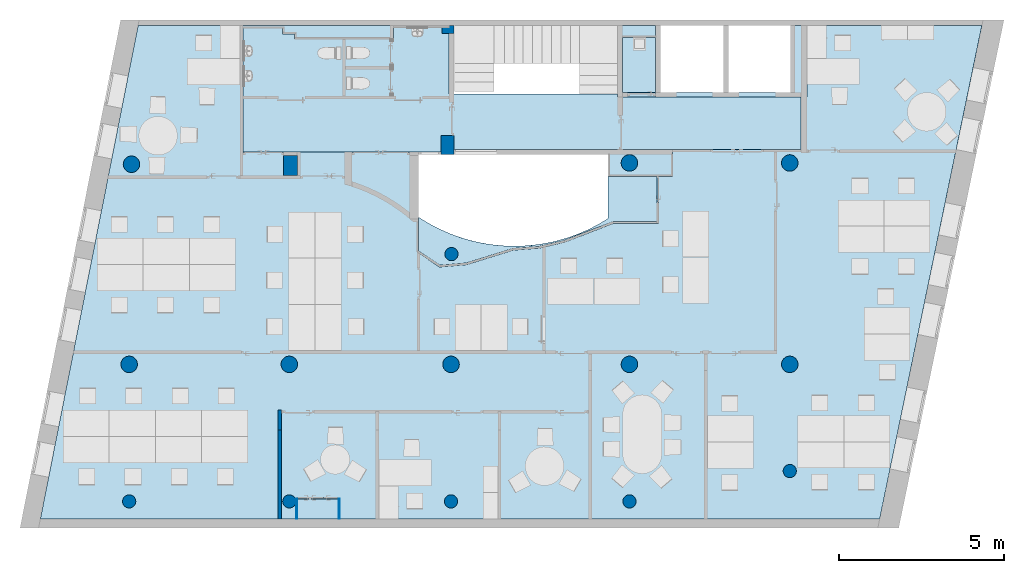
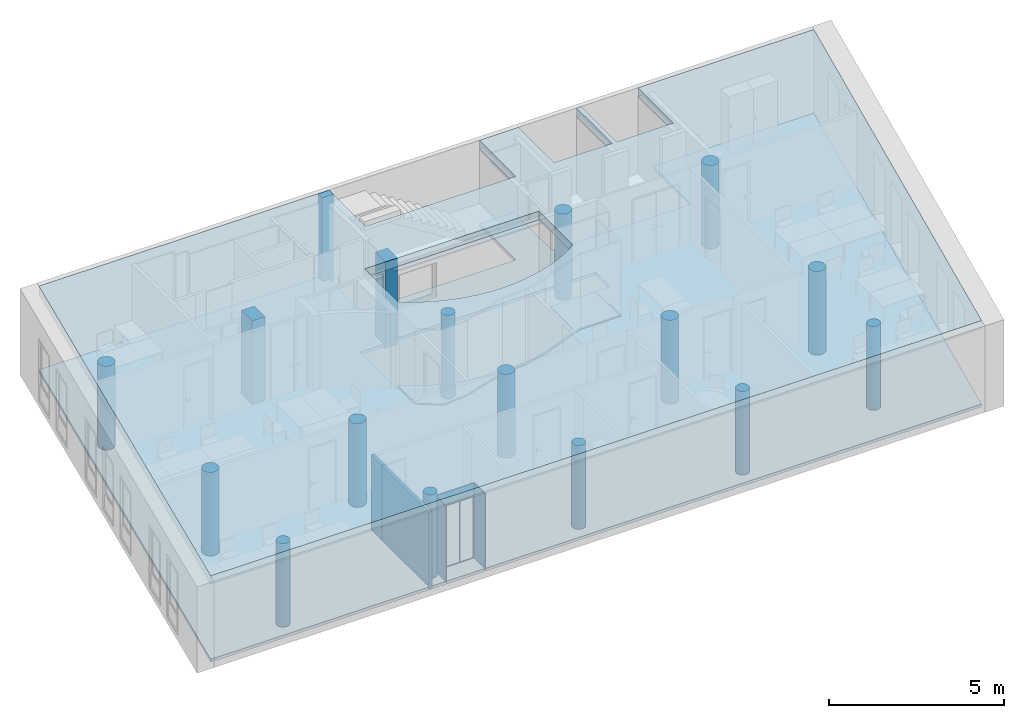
"""IFC4 building model written with IfcOpenShell, lengths in metres."""

from ifc_helpers import new_model, entity, si_unit, converted_unit, derived_unit, frame, frame_2d, origin, origin_with_axes, place, context, subcontext, project, spatial, polyline, rectangle, circle, outline, extrude, material, layer, layer_set, layer_usage, element, save


model = new_model("IFC4")

# Units and contexts
model_context = context("Model", 3, precision=1e-05, world=origin())
body_context = subcontext(model_context, "Body", "Model", "MODEL_VIEW")
ifc_project = project(units=[si_unit("LENGTHUNIT", "METRE"), si_unit("AREAUNIT", "SQUARE_METRE"), si_unit("VOLUMEUNIT", "CUBIC_METRE"), si_unit("MASSUNIT", "GRAM", prefix="KILO"), converted_unit("PLANEANGLEUNIT", "DEGREE", entity("IfcPlaneAngleMeasure", 0.0174532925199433), si_unit("PLANEANGLEUNIT", "RADIAN"), dimensions=[0, 0, 0, 0, 0, 0, 0]), derived_unit("THERMALTRANSMITTANCEUNIT", [(si_unit("POWERUNIT", "WATT"), 1), (si_unit("THERMODYNAMICTEMPERATUREUNIT", "KELVIN"), -1), (si_unit("LENGTHUNIT", "METRE"), -2)]), derived_unit("VOLUMETRICFLOWRATEUNIT", [(si_unit("LENGTHUNIT", "METRE"), 3), (converted_unit("TIMEUNIT", "hour", entity("IfcTimeMeasure", 3600.0), si_unit("TIMEUNIT", "SECOND"), dimensions=[0, 0, 1, 0, 0, 0, 0]), -1), (si_unit("LENGTHUNIT", "METRE"), -1)])], contexts=[model_context])

# Building, storeys
building_placement = place(None, origin())
building = spatial("IfcBuilding", under=ifc_project, at=building_placement, Name="HABITATGE PLURIFAMILIAR", CompositionType="ELEMENT")
storey_1_placement = place(building_placement, frame((0.0, 0.0, 9.26)))
storey_1 = spatial("IfcBuildingStorey", under=building, at=storey_1_placement, Name="PLANTA SEGONA", CompositionType="ELEMENT", Elevation=9.26)
storey_2_placement = place(storey_1_placement, frame((0.0, 0.0, 6.25)))
storey_2 = spatial("IfcBuildingStorey", under=storey_1, at=storey_2_placement, Name="NOU", CompositionType="PARTIAL")

# Columns
column_1_placement = place(storey_2_placement, frame((420.791984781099, 14.3694598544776, -6.35)))
element("IfcColumn", 1, at=column_1_placement, inside=storey_2, Name="Pilar P2", PredefinedType="COLUMN", context=body_context, shape_type="SweptSolid", body=[
    extrude(circle(Radius=0.200000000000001, at=frame_2d((0.200000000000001, 0.200000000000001), x_axis=(1.0, 0.0))), origin_with_axes(), (0.0, 0.0, 1.0), 3.01),
])
column_2_placement = place(storey_2_placement, frame((400.736984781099, 17.5494598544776, -6.35)))
element("IfcColumn", 2, at=column_2_placement, inside=storey_2, Name="Pilar P2", PredefinedType="COLUMN", context=body_context, shape_type="SweptSolid", body=[
    extrude(circle(Radius=0.25, at=frame_2d((0.25, 0.25), x_axis=(1.0, 0.0))), origin_with_axes(), (0.0, 0.0, 1.0), 3.01),
])
column_3_placement = place(storey_2_placement, frame((410.533725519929, 13.4494598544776, -6.35)))
element("IfcColumn", 3, at=column_3_placement, inside=storey_2, Name="Pilar P2", PredefinedType="COLUMN", context=body_context, shape_type="SweptSolid", body=[
    extrude(circle(Radius=0.200000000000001, at=frame_2d((0.200000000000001, 0.200000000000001), x_axis=(1.0, 0.0))), origin_with_axes(), (0.0, 0.0, 1.0), 3.01),
])
for number, where, name in (
    (4, (410.483725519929, 17.5494598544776, -6.35), "Pilar P2"),
    (5, (405.586984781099, 17.5494598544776, -6.35), "Pilar P2"),
):
    element("IfcColumn", number, at=place(storey_2_placement, frame(where)), inside=storey_2, Name=name, PredefinedType="COLUMN", context=body_context, shape_type="SweptSolid", body=[
        extrude(circle(Radius=0.25, at=frame_2d((0.25, 0.25), x_axis=(1.0, 0.0))), origin_with_axes(), (0.0, 0.0, 1.0), 3.01),
    ])
for number, where, name in (
    (6, (405.636984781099, 13.4494598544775, -6.35), "Pilar P2"),
    (7, (400.786984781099, 13.4494598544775, -6.35), "Pilar P2"),
    (8, (415.936984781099, 13.4494598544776, -6.35), "Pilar P2"),
):
    element("IfcColumn", number, at=place(storey_2_placement, frame(where)), inside=storey_2, Name=name, PredefinedType="COLUMN", context=body_context, shape_type="SweptSolid", body=[
        extrude(circle(Radius=0.200000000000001, at=frame_2d((0.200000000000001, 0.200000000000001), x_axis=(1.0, 0.0))), origin_with_axes(), (0.0, 0.0, 1.0), 3.01),
    ])
for number, where, name in (
    (9, (415.886984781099, 17.5494598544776, -6.35), "Pilar P2"),
    (10, (420.741984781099, 23.6494598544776, -6.35), "Pilar P2"),
):
    element("IfcColumn", number, at=place(storey_2_placement, frame(where)), inside=storey_2, Name=name, PredefinedType="COLUMN", context=body_context, shape_type="SweptSolid", body=[
        extrude(circle(Radius=0.25, at=frame_2d((0.25, 0.25), x_axis=(1.0, 0.0))), origin_with_axes(), (0.0, 0.0, 1.0), 3.01),
    ])
column_4_placement = place(storey_2_placement, frame((410.546984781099, 20.9394598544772, -6.35)))
element("IfcColumn", 11, at=column_4_placement, inside=storey_2, Name="Pilar P2", PredefinedType="COLUMN", context=body_context, shape_type="SweptSolid", body=[
    extrude(circle(Radius=0.200000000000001, at=frame_2d((0.200000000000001, 0.200000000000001), x_axis=(1.0, 0.0))), origin_with_axes(), (0.0, 0.0, 1.0), 3.01),
])
for number, where, name in (
    (12, (420.741984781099, 17.5494598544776, -6.35), "Pilar P2"),
    (13, (400.806984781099, 23.6094598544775, -6.35), "Pilar P2"),
    (14, (415.886984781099, 23.6494598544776, -6.35), "Pilar P2"),
):
    element("IfcColumn", number, at=place(storey_2_placement, frame(where)), inside=storey_2, Name=name, PredefinedType="COLUMN", context=body_context, shape_type="SweptSolid", body=[
        extrude(circle(Radius=0.25, at=frame_2d((0.25, 0.25), x_axis=(1.0, 0.0))), origin_with_axes(), (0.0, 0.0, 1.0), 3.01),
    ])
column_5_placement = place(storey_2_placement, frame((405.666984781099, 23.5194598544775, -6.35)))
element("IfcColumn", 15, at=column_5_placement, inside=storey_2, Name="Pilar P2", PredefinedType="COLUMN", context=body_context, shape_type="SweptSolid", body=[
    extrude(rectangle(XDim=0.423483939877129, YDim=0.609999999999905, at=frame_2d((0.211741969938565, 0.304999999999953), x_axis=(1.0, 0.0))), origin_with_axes(), (0.0, 0.0, 1.0), 3.01),
])
column_6_placement = place(storey_2_placement, frame((410.456984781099, 27.8194598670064, -6.35)))
element("IfcColumn", 16, at=column_6_placement, inside=storey_2, Name="Pilar P2", PredefinedType="COLUMN", context=body_context, shape_type="SweptSolid", body=[
    extrude(rectangle(XDim=0.370009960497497, YDim=0.248788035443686, at=frame_2d((0.185004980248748, 0.124394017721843), x_axis=(1.0, 0.0))), origin_with_axes(), (0.0, 0.0, 1.0), 3.01),
])
column_7_placement = place(storey_2_placement, frame((410.426984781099, 24.1594598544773, -6.35)))
element("IfcColumn", 17, at=column_7_placement, inside=storey_2, Name="Pilar P2", PredefinedType="COLUMN", context=body_context, shape_type="SweptSolid", body=[
    extrude(rectangle(XDim=0.403999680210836, YDim=0.57, at=frame_2d((0.201999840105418, 0.285), x_axis=(1.0, 0.0))), origin_with_axes(), (0.0, 0.0, 1.0), 3.01),
])

# Slabs
slab_1_placement = place(storey_2_placement, frame((398.297144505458, 13.1206121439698, -3.64)))
element("IfcSlab", 18, at=slab_1_placement, inside=storey_2, Name="Forjat P2", PredefinedType="FLOOR", context=body_context, shape_type="SweptSolid", body=[
    extrude(outline(polyline([(20.8398402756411, 12.9188477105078), (20.8398402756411, 14.9476357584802), (20.6898402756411, 14.9476357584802), (20.6898402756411, 12.9188477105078), (18.7798402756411, 12.9188477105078), (18.7798402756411, 14.9476357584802), (17.4836526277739, 14.9476502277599), (17.4836526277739, 12.8715410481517), (12.5298402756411, 12.8688477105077), (12.5298402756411, 14.9476357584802), (2.96158180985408, 14.9476357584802), (0.0, 0.0), (25.4183646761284, 0.0), (28.5161046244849, 14.9476357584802), (22.7098402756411, 14.9476357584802), (22.7098402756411, 12.9188477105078), (20.8398402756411, 12.9188477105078)]), holes=[polyline([(16.2206962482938, 8.6026512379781), (16.1749420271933, 8.58564074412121), (16.1729527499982, 8.58469488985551), (15.8124077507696, 8.46578192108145), (15.4441904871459, 8.37332091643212), (15.0702388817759, 8.30779849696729), (14.6925210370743, 8.26955950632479), (14.3130248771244, 8.25880519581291), (14.2330918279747, 8.26005133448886), (14.1531871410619, 8.26251836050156), (14.0733294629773, 8.26620569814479), (13.9935374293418, 8.2711124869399), (13.9372717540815, 8.27543618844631), (13.933747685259, 8.27559216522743), (13.5566855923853, 8.31983206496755), (13.1838230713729, 8.3912920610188), (12.8171224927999, 8.48959606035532), (12.4585137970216, 8.6142266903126), (12.449840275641, 8.61796602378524), (12.449840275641, 8.61952805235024), (12.2480198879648, 8.70137466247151), (11.9736397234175, 8.83166361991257), (11.7072807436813, 8.97765191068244), (11.4498402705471, 9.1388477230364), (11.4498402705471, 11.0388477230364), (17.192477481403, 11.0388477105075), (17.1898402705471, 9.09321161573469), (16.8634861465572, 8.89923744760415), (16.8621705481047, 8.89866396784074), (16.7985794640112, 8.86437094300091), (16.7180306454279, 8.82271823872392), (16.6367721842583, 8.78246749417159), (16.5548284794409, 8.74363079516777), (16.4722241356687, 8.70621980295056), (16.3889839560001, 8.67024575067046), (16.3051329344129, 8.63571944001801), (16.2206962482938, 8.6026512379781)])]), origin_with_axes(), (0.0, 0.0, 1.0), 0.3),
])
slab_2_placement = place(storey_2_placement, frame((404.436984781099, 24.2294598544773, -3.94)))
element("IfcSlab", 19, at=slab_2_placement, inside=storey_2, Name="Fals sostre P2", PredefinedType="FLOOR", context=body_context, shape_type="SweptSolid", body=[
    extrude(outline(polyline([(0.0, 3.75000000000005), (0.0, 0.0), (5.99154028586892, 0.0), (5.99000000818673, 0.500000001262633), (6.39399968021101, 0.500000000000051), (6.39399968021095, 0.0800000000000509), (16.8999999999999, 0.0774430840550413), (16.8999999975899, 1.66000001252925), (11.3438123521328, 1.66000001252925), (11.3438123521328, 1.76086582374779), (6.24000000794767, 1.76086582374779), (6.24000000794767, 3.59000001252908), (6.01999999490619, 3.59000001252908), (6.02, 3.77000000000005), (4.54999999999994, 3.77000000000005), (4.55048888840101, 3.41999999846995), (1.56, 3.42000000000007), (1.56, 3.58000000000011), (1.2, 3.58000000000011), (1.2, 3.75000000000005), (0.0, 3.75000000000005)])), origin_with_axes(), (0.0, 0.0, 1.0), 0.05),
    extrude(rectangle(XDim=0.996187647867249, YDim=1.66000001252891, at=frame_2d((0.498093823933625, 0.830000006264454), x_axis=(1.0, 0.0))), frame((11.4938123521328, 1.81000000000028, 0.0), z_axis=(0.0, 0.0, 1.0), x_axis=(1.0, 0.0, 0.0)), (0.0, 0.0, 1.0), 0.05),
])
slab_3_placement = place(storey_2_placement, frame((398.297144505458, 13.1206121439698, -6.35)))
element("IfcSlab", 20, at=slab_3_placement, inside=storey_2, PredefinedType="FLOOR", context=body_context, shape_type="SweptSolid", body=[
    extrude(outline(polyline([(28.5136686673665, 14.9476357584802), (23.2098402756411, 14.9476357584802), (23.2098402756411, 12.7788477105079), (18.6298402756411, 12.7788477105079), (18.6298402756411, 14.9476357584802), (17.4836526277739, 14.9476357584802), (17.4836526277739, 12.8715492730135), (12.3798402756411, 12.87065087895), (12.3798402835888, 14.9476357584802), (2.96158180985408, 14.9476357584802), (0.0, 0.0), (25.4191163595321, 0.0), (28.5136686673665, 14.9476357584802)]), holes=[polyline([(11.399840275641, 8.98799691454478), (11.3498402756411, 9.14109523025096), (11.3498402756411, 11.1088477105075), (12.1298402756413, 11.1088477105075), (12.1298402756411, 11.6088477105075), (12.5298402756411, 11.6088477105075), (12.5298402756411, 11.1888176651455), (12.5338399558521, 11.1888477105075), (19.1498402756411, 11.1888477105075), (19.1498402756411, 10.3688477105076), (18.669840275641, 10.3688477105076), (18.6698402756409, 9.61274661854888), (18.7198402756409, 9.61274661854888), (18.719840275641, 8.94884771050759), (17.3498402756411, 8.94884771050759), (15.8749039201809, 8.37852611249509), (15.1070359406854, 8.1988425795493), (14.3198562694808, 8.13884726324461), (12.9062579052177, 7.6988477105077), (12.0892520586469, 7.62884778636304), (11.399840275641, 8.08901440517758), (11.399840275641, 8.98799691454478)])]), origin_with_axes(), (0.0, 0.0, 1.0), 0.1),
])
slab_4_placement = place(storey_2_placement, frame((409.746984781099, 20.80077295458, -6.35)))
element("IfcSlab", 21, at=slab_4_placement, inside=storey_2, Name="Paviment P2", PredefinedType="FLOOR", context=body_context, shape_type="SweptSolid", body=[
    extrude(outline(polyline([(5.74, 1.4130507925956), (5.43322581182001, 1.22982717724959), (5.11466340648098, 1.06796523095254), (4.78579800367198, 0.928219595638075), (4.44816285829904, 0.811241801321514), (4.103332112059, 0.71757722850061), (3.75291345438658, 0.647662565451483), (3.39854062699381, 0.601823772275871), (3.04186580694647, 0.580274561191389), (2.68455190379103, 0.583115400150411), (2.32826480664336, 0.610333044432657), (1.97466561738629, 0.661800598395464), (1.62540290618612, 0.737278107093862), (1.28210502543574, 0.836413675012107), (0.946372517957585, 0.958745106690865), (0.619770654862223, 1.10370206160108), (0.303822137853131, 1.27060871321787), (0.0, 1.45868689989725), (0.0, 0.435594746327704), (0.652598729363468, 0.0), (1.44673818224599, 0.0680407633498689), (2.86004820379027, 0.508111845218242), (3.64957753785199, 0.568249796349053), (4.4114850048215, 0.746538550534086), (5.14324609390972, 1.03532075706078), (5.88211983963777, 1.31538088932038), (5.89001731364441, 1.31843577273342), (5.8899706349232, 1.31868689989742), (7.22, 1.31868689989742), (7.22000000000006, 2.68868689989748), (5.74000000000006, 2.68868689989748), (5.74, 1.4130507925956)]), holes=[polyline([(0.897611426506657, 0.167154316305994), (0.884992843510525, 0.17443965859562), (0.873831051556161, 0.183805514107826), (0.87144247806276, 0.185478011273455), (0.869380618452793, 0.187539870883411), (0.858218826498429, 0.196905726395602), (0.848852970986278, 0.20806751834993), (0.846791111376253, 0.21012937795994), (0.845118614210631, 0.212517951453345), (0.835752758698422, 0.223679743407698), (0.828467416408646, 0.236298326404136), (0.826794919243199, 0.23868689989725), (0.825562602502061, 0.241329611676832), (0.818277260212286, 0.253948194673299), (0.813293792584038, 0.267640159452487), (0.8120614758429, 0.270282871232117), (0.811306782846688, 0.27309942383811), (0.80632331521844, 0.286791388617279), (0.80379314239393, 0.301140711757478), (0.803038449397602, 0.303957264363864), (0.802784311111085, 0.306862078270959), (0.800254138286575, 0.321211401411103), (0.800254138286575, 0.356162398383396), (0.802784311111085, 0.370511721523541), (0.803038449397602, 0.373416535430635), (0.80379314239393, 0.376233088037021), (0.80632331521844, 0.39058241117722), (0.811306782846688, 0.404274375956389), (0.8120614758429, 0.407090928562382), (0.813293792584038, 0.409733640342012), (0.818277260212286, 0.4234256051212), (0.825562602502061, 0.436044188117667), (0.826794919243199, 0.43868689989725), (0.828467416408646, 0.441075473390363), (0.835752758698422, 0.453694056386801), (0.845118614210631, 0.464855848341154), (0.846791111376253, 0.467244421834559), (0.848852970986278, 0.469306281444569), (0.858218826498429, 0.480468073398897), (0.869380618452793, 0.489833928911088), (0.87144247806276, 0.491895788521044), (0.873831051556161, 0.493568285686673), (0.884992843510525, 0.502934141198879), (0.897611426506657, 0.510219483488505), (0.900000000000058, 0.511891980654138), (0.902642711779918, 0.513124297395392), (0.915261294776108, 0.520409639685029), (0.928953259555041, 0.525393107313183), (0.9315959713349, 0.526625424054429), (0.934412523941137, 0.527380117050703), (0.94810448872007, 0.532363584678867), (0.962453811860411, 0.534893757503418), (0.965270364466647, 0.535648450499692), (0.968175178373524, 0.535902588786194), (0.982524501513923, 0.538432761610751), (1.01747549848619, 0.538432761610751), (1.03182482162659, 0.535902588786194), (1.03472963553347, 0.535648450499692), (1.03754618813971, 0.534893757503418), (1.05189551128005, 0.532363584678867), (1.06558747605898, 0.527380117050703), (1.06840402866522, 0.526625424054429), (1.07104674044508, 0.525393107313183), (1.08473870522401, 0.520409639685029), (1.0973572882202, 0.513124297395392), (1.10000000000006, 0.511891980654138), (1.10238857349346, 0.510219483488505), (1.11500715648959, 0.502934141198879), (1.12616894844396, 0.493568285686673), (1.12855752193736, 0.491895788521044), (1.13061938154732, 0.489833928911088), (1.14178117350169, 0.480468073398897), (1.15114702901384, 0.469306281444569), (1.15320888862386, 0.467244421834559), (1.15488138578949, 0.464855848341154), (1.16424724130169, 0.453694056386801), (1.17153258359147, 0.441075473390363), (1.17320508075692, 0.43868689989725), (1.17443739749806, 0.436044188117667), (1.18172273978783, 0.4234256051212), (1.18670620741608, 0.409733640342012), (1.18793852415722, 0.407090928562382), (1.18869321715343, 0.404274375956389), (1.19367668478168, 0.39058241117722), (1.19620685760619, 0.376233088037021), (1.19696155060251, 0.373416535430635), (1.19721568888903, 0.370511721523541), (1.19974586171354, 0.356162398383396), (1.19974586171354, 0.321211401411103), (1.19721568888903, 0.306862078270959), (1.19696155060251, 0.303957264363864), (1.19620685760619, 0.301140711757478), (1.19367668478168, 0.286791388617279), (1.18869321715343, 0.27309942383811), (1.18793852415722, 0.270282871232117), (1.18670620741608, 0.267640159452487), (1.18172273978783, 0.253948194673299), (1.17443739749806, 0.241329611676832), (1.17320508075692, 0.23868689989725), (1.17153258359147, 0.236298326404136), (1.16424724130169, 0.223679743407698), (1.15488138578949, 0.212517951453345), (1.15320888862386, 0.21012937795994), (1.15114702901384, 0.20806751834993), (1.14178117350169, 0.196905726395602), (1.13061938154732, 0.187539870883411), (1.12855752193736, 0.185478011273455), (1.12616894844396, 0.183805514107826), (1.11500715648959, 0.17443965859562), (1.10238857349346, 0.167154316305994), (1.10000000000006, 0.165481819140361), (1.0973572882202, 0.164249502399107), (1.08473870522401, 0.15696416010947), (1.07104674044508, 0.151980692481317), (1.06840402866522, 0.15074837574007), (1.06558747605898, 0.149993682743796), (1.05189551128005, 0.145010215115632), (1.03754618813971, 0.142480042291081), (1.03472963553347, 0.141725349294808), (1.03182482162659, 0.141471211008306), (1.01747549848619, 0.138941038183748), (0.982524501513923, 0.138941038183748), (0.968175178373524, 0.141471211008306), (0.965270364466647, 0.141725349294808), (0.962453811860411, 0.142480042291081), (0.94810448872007, 0.145010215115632), (0.934412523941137, 0.149993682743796), (0.9315959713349, 0.15074837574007), (0.928953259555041, 0.151980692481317), (0.915261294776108, 0.15696416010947), (0.902642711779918, 0.164249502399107), (0.900000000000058, 0.165481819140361), (0.897611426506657, 0.167154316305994)])]), origin_with_axes(), (0.0, 0.0, 1.0), 0.1),
])

# Wall
ifc_material_1 = material()
ifc_layer_1 = layer(ifc_material_1, 0.025)
ifc_layer_set_1 = layer_set([ifc_layer_1])
ifc_layer_usage_1 = layer_usage(ifc_layer_set_1, "AXIS2", "POSITIVE", 0.0)
wall_1_placement = place(storey_2_placement, frame((407.361610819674, 13.1206121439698, -6.3), z_axis=(0.0, 0.0, 1.0), x_axis=(0.0, 1.0, 0.0)))
element("IfcWall", 22, at=wall_1_placement, inside=storey_2, material=ifc_layer_usage_1, Name="Evans PA", context=body_context, shape_type="SweptSolid", body=[
    extrude(rectangle(XDim=0.612524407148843, YDim=0.025, at=frame_2d((0.306262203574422, 0.0125), x_axis=(1.0, 0.0))), origin_with_axes(), (0.0, 0.0, 1.0), 2.66),
])

# Wall, openings
ifc_material_2 = material()
ifc_layer_2 = layer(ifc_material_2, 0.03)
ifc_layer_set_2 = layer_set([ifc_layer_2])
ifc_layer_usage_2 = layer_usage(ifc_layer_set_2, "AXIS2", "POSITIVE", 0.0)
wall_2_placement = place(storey_2_placement, frame((407.361610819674, 13.7631365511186, -6.3), z_axis=(0.0, 0.0, 1.0), x_axis=(-1.0, 0.0, 0.0)))
wall_2 = element("IfcWall", 23, at=wall_2_placement, inside=storey_2, material=ifc_layer_usage_2, Name="Evans PA", context=body_context, shape_type="SweptSolid", body=[
    extrude(rectangle(XDim=1.31229787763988, YDim=0.03, at=frame_2d((0.656148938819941, 0.015), x_axis=(1.0, 0.0))), origin_with_axes(), (0.0, 0.0, 1.0), 2.66),
])
opening_1_placement = place(wall_2_placement, frame((0.0452878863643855, 0.0, 0.05), z_axis=(0.0, 1.0, 0.0), x_axis=(0.0, 0.0, 1.0)))
element("IfcOpeningElement", 24, at=opening_1_placement, cuts=wall_2, Name="Vano de puerta PA", ObjectType="Opening", context=body_context, shape_type="SweptSolid", body=[
    extrude(outline(polyline([(2.15, 0.441930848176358), (2.15, 0.0), (0.0, 0.0), (0.0, 0.441930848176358), (2.15, 0.441930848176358)])), origin_with_axes(), (0.0, 0.0, 1.0), 0.03),
])
opening_2_placement = place(wall_2_placement, frame((0.487834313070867, 0.0, 0.05), z_axis=(0.0, 1.0, 0.0), x_axis=(0.0, 0.0, 1.0)))
element("IfcOpeningElement", 25, at=opening_2_placement, cuts=wall_2, Name="Vano de puerta PA", ObjectType="Opening", context=body_context, shape_type="SweptSolid", body=[
    extrude(outline(polyline([(2.15, 0.822674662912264), (2.15, 0.0), (0.0, 0.0), (0.0, 0.822674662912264), (2.15, 0.822674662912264)])), origin_with_axes(), (0.0, 0.0, 1.0), 0.03),
])

# Walls
ifc_material_3 = material()
ifc_layer_3 = layer(ifc_material_3, 0.025)
ifc_layer_set_3 = layer_set([ifc_layer_3])
ifc_layer_usage_3 = layer_usage(ifc_layer_set_3, "AXIS2", "POSITIVE", 0.0)
wall_3_placement = place(storey_2_placement, frame((406.074312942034, 13.1206121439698, -6.3), z_axis=(0.0, 0.0, 1.0), x_axis=(0.0, 1.0, 0.0)))
element("IfcWall", 26, at=wall_3_placement, inside=storey_2, material=ifc_layer_usage_3, Name="Evans PA", context=body_context, shape_type="SweptSolid", body=[
    extrude(rectangle(XDim=0.612524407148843, YDim=0.025, at=frame_2d((0.306262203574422, 0.0125), x_axis=(1.0, 0.0))), origin_with_axes(), (0.0, 0.0, 1.0), 2.66),
])
ifc_material_4 = material()
ifc_layer_4 = layer(ifc_material_4, 0.1)
ifc_layer_set_4 = layer_set([ifc_layer_4])
ifc_layer_usage_4 = layer_usage(ifc_layer_set_4, "AXIS2", "POSITIVE", 0.0)
wall_4_placement = place(storey_2_placement, frame((405.599312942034, 13.1206121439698, -6.35), z_axis=(0.0, 0.0, 1.0), x_axis=(0.0, 1.0, 0.0)))
element("IfcWall", 27, at=wall_4_placement, inside=storey_2, material=ifc_layer_usage_4, Name="Evans P2", context=body_context, shape_type="SweptSolid", body=[
    extrude(rectangle(XDim=2.69796081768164, YDim=0.1, at=frame_2d((1.34898040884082, 0.05), x_axis=(1.0, 0.0))), origin_with_axes(), (0.0, 0.0, 1.0), 2.71),
])
ifc_material_5 = material()
ifc_layer_5 = layer(ifc_material_5, 0.1)
ifc_layer_set_5 = layer_set([ifc_layer_5])
ifc_layer_usage_5 = layer_usage(ifc_layer_set_5, "AXIS2", "POSITIVE", 0.0)
wall_5_placement = place(storey_2_placement, frame((405.599312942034, 15.8185729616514, -6.35), z_axis=(0.0, 0.0, 1.0), x_axis=(0.0, 1.0, 0.0)))
element("IfcWall", 28, at=wall_5_placement, inside=storey_2, material=ifc_layer_usage_5, Name="Mampara P2", context=body_context, shape_type="SweptSolid", body=[
    extrude(rectangle(XDim=0.6, YDim=0.1, at=frame_2d((0.3, 0.05), x_axis=(1.0, 0.0))), origin_with_axes(), (0.0, 0.0, 1.0), 2.71),
])

save(model, "model.ifc")
